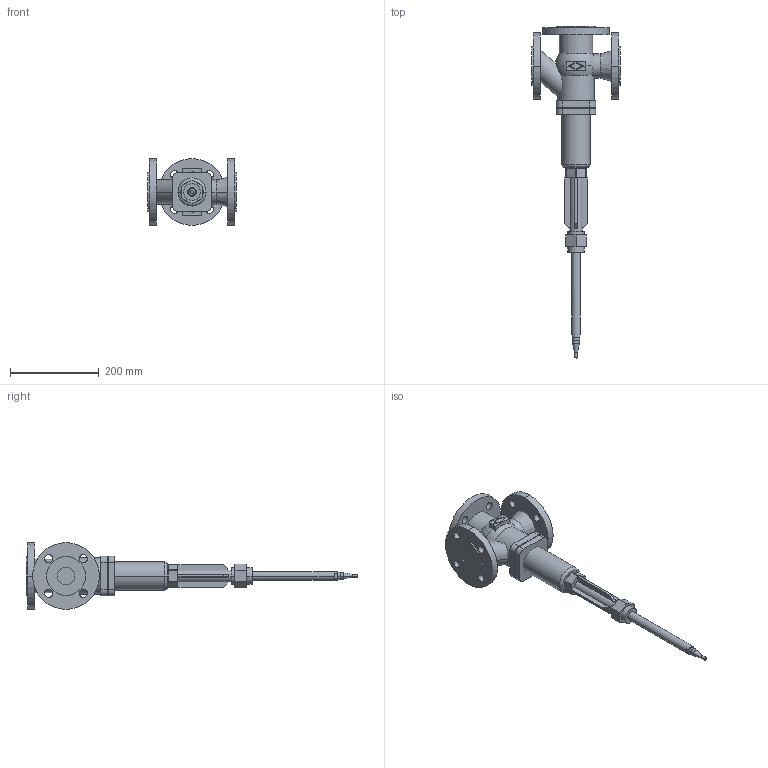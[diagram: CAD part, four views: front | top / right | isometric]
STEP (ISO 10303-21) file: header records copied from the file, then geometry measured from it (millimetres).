
FILE_DESCRIPTION(('CoCreate Modeling STEP Export'),'2;1');
FILE_NAME('c000004788.stp','2011-09-23T10:21:29',(''),(''),'CoCreate Modeling STEP processor for AP214 (Solid Model)','CoCreate Modeling 17.0 01-Apr-2010 (C) Parametric Technology GmbH','');
FILE_SCHEMA(('AUTOMOTIVE_DESIGN { 1 0 10303 214 1 1 1 1 }'));
Length unit declared in the file: millimetre
Products named in the file (1): 1
Bounding box: 200 x 746.44 x 150 mm (x, y, z)
Volume: 2770305 mm3; surface area: 278020.5 mm2
Topology: 1 solids, 1 shells, 192 faces, 475 edges, 307 vertices
Faces by surface type: cylinder 88, plane 88, cone 10, sphere 4, torus 2
Entity records: 6930 total; most frequent: CARTESIAN_POINT 1115, ORIENTED_EDGE 950, DIRECTION 804, EDGE_CURVE 475, VERTEX_POINT 307, AXIS2_PLACEMENT_3D 281, VECTOR 242, LINE 242
